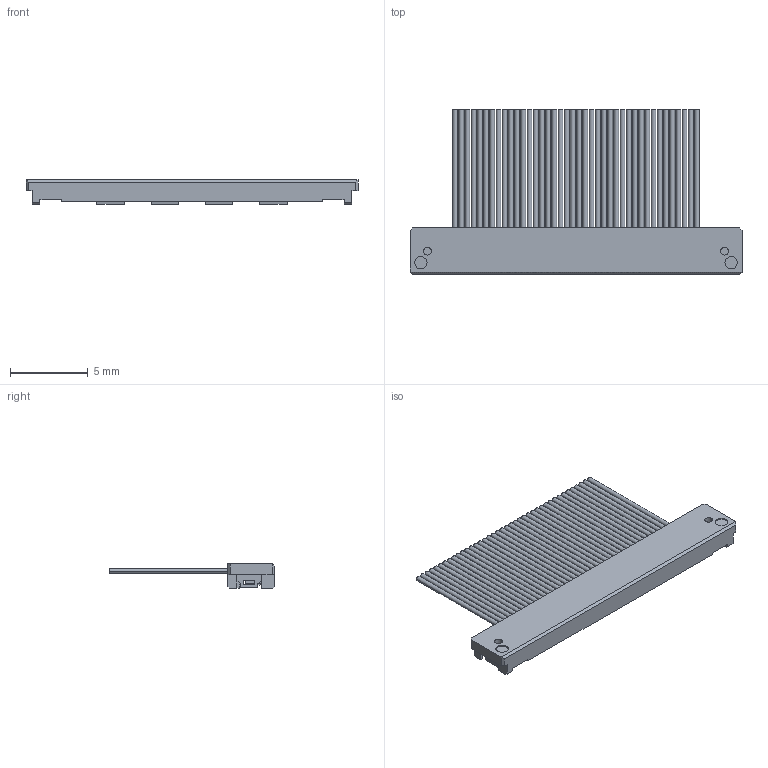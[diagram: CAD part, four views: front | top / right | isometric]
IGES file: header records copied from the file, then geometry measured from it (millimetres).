
Start section: Elysium IGES Interface
Global section: file name: C:\Users\1088\Desktop\P39911_USLS20-40\P39911_USLS20-40.igs; native system: CoCreate Modeling 17.0B  09-Oct-2010; preprocessor: CoCreate IGES_3D V2.2; author: Unknown; organization: Unknown; date: 20171122.181542; units: millimetre
Bounding box: 21.4 x 10.63 x 1.58 mm (x, y, z)
Volume: 87.6 mm3; surface area: 539.6 mm2
Topology: 1 solids, 1 shells, 1046 faces, 2688 edges, 1734 vertices
Faces by surface type: bspline 1046
